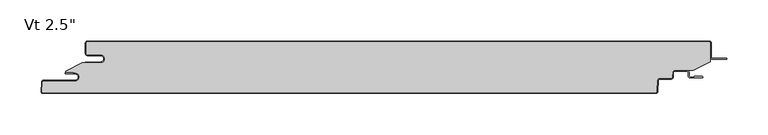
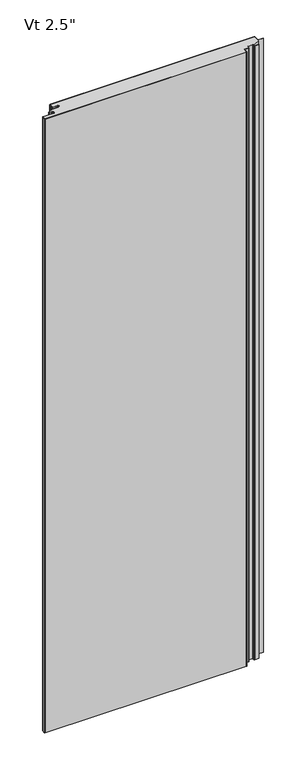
"""IFC4 building model written with IfcOpenShell, lengths in millimetres: plate geometry."""

from ifc_helpers import new_model, si_unit, point, frame, frame_2d, origin, origin_with_axes, place, context, project, spatial, polyline, circle_curve, ellipse_curve, trimmed, segment, composite_curve, outline, extrude, source, transform, mapped, element, save
from ifc_brep_helpers import plane_surface, cylinder_surface, revolved_surface, extruded_surface, advanced_brep


def plate_39f8857a(model_context):
    return source(origin(), model_context, "Body", "SolidModel", [
        extrude(outline(composite_curve([segment(polyline([(-361.94375, -16.4625), (-377.81875, -16.4625)]), True, "CONTINUOUS"), segment(trimmed(circle_curve(frame_2d((-377.81875, -15.08125)), 1.38125), [point((-377.81875, -16.4625))], [point((-379.2, -15.08125))], False, "CARTESIAN"), True, "CONTINUOUS"), segment(polyline([(-379.2, -15.08125), (-379.2, -2.38125)]), True, "CONTINUOUS"), segment(trimmed(circle_curve(frame_2d((-377.81875, -2.38125)), 1.38125), [point((-379.2, -2.38125))], [point((-377.81875, -1.0))], False, "CARTESIAN"), True, "CONTINUOUS"), segment(polyline([(-377.81875, -1.0), (377.83125, -1.0)]), True, "CONTINUOUS"), segment(trimmed(circle_curve(frame_2d((377.83125, -2.38125)), 1.38125), [point((377.83125, -1.0))], [point((379.2125, -2.38125))], False, "CARTESIAN"), True, "CONTINUOUS"), segment(polyline([(379.2125, -2.38125), (379.2125, -24.9057308), (358.3955434, -35.5125), (335.9540783, -35.5125)]), True, "CONTINUOUS"), segment(trimmed(circle_curve(frame_2d((335.9540783, -38.1)), 2.5875), [point((335.9540783, -35.5125))], [point((333.3701244, -37.9645807))], True, "CARTESIAN"), True, "CONTINUOUS"), segment(polyline([(333.3701244, -37.9645807), (333.0680481, -43.728539)]), True, "CONTINUOUS"), segment(trimmed(circle_curve(frame_2d((331.6886911, -43.65625)), 1.38125), [point((333.0680481, -43.728539))], [point((331.6886911, -45.0375))], False, "CARTESIAN"), True, "CONTINUOUS"), segment(polyline([(331.6886911, -45.0375), (317.5323847, -45.0375)]), True, "CONTINUOUS"), segment(trimmed(circle_curve(frame_2d((317.5323847, -47.625)), 2.5875), [point((317.5323847, -45.0375))], [point((314.9484307, -47.4895807))], True, "CARTESIAN"), True, "CONTINUOUS"), segment(polyline([(314.9484307, -47.4895807), (314.2303677, -61.191039)]), True, "CONTINUOUS"), segment(trimmed(circle_curve(frame_2d((312.8510107, -61.11875)), 1.38125), [point((314.2303677, -61.191039))], [point((312.8510107, -62.5))], False, "CARTESIAN"), True, "CONTINUOUS"), segment(polyline([(312.8510107, -62.5), (-431.6799535, -62.5)]), True, "CONTINUOUS"), segment(trimmed(circle_curve(frame_2d((-431.6799535, -61.11875)), 1.38125), [point((-431.6799535, -62.5))], [point((-433.0593106, -61.046461))], False, "CARTESIAN"), True, "CONTINUOUS"), segment(polyline([(-433.0593106, -61.046461), (-432.4769291, -49.933961)]), True, "CONTINUOUS"), segment(trimmed(circle_curve(frame_2d((-431.0975721, -50.00625)), 1.38125), [point((-432.4769291, -49.933961))], [point((-431.0975721, -48.625))], False, "CARTESIAN"), True, "CONTINUOUS"), segment(polyline([(-431.0975721, -48.625), (-392.9142674, -48.625)]), True, "CONTINUOUS"), segment(trimmed(circle_curve(frame_2d((-392.9142674, -43.65625)), 4.96875), [point((-392.9142674, -48.625))], [point((-392.9142674, -38.6875))], True, "CARTESIAN"), True, "CONTINUOUS"), segment(polyline([(-392.9142674, -38.6875), (-394.5017674, -38.89375), (-394.5017674, -38.1), (-404.0125, -38.1), (-404.0125, -36.5326309), (-384.1260922, -26.4), (-361.94375, -26.4)]), True, "CONTINUOUS"), segment(trimmed(circle_curve(frame_2d((-361.94375, -21.43125)), 4.96875), [point((-361.94375, -26.4))], [point((-361.94375, -16.4625))], True, "CARTESIAN"), True, "CONTINUOUS")], self_intersect=False)), origin_with_axes(), (0.0, 0.0, 1.0), 2400.0),
        extrude(outline(composite_curve([segment(polyline([(-380.2, -25.4), (-361.94375, -25.4)]), True, "CONTINUOUS"), segment(trimmed(circle_curve(frame_2d((-361.94375, -21.43125)), 3.96875), [point((-361.94375, -25.4))], [point((-361.94375, -17.4625))], True, "CARTESIAN"), True, "CONTINUOUS"), segment(polyline([(-361.94375, -17.4625), (-377.81875, -17.4625)]), True, "CONTINUOUS"), segment(trimmed(circle_curve(frame_2d((-377.81875, -15.08125)), 2.38125), [point((-377.81875, -17.4625))], [point((-380.2, -15.08125))], False, "CARTESIAN"), True, "CONTINUOUS"), segment(polyline([(-380.2, -15.08125), (-380.2, -2.38125)]), True, "CONTINUOUS"), segment(trimmed(circle_curve(frame_2d((-377.81875, -2.38125)), 2.38125), [point((-380.2, -2.38125))], [point((-377.81875, 0.0))], False, "CARTESIAN"), True, "CONTINUOUS"), segment(polyline([(-377.81875, 0.0), (377.83125, 0.0)]), True, "CONTINUOUS"), segment(trimmed(circle_curve(frame_2d((377.83125, -2.38125)), 2.38125), [point((377.83125, 0.0))], [point((380.2125, -2.38125))], False, "CARTESIAN"), True, "CONTINUOUS"), segment(polyline([(380.2125, -2.38125), (380.2125, -19.446875)]), True, "CONTINUOUS"), segment(trimmed(circle_curve(frame_2d((381.8, -19.446875)), 1.5875), [point((380.2125, -19.446875))], [point((381.8, -21.034375))], True, "CARTESIAN"), True, "CONTINUOUS"), segment(polyline([(381.8, -21.034375), (399.2625, -21.034375), (399.2625, -22.034375), (381.8, -22.034375)]), True, "CONTINUOUS"), segment(trimmed(circle_curve(frame_2d((381.8, -19.446875)), 2.5875), [point((381.8, -22.034375))], [point((379.2125, -19.446875))], False, "CARTESIAN"), True, "CONTINUOUS"), segment(polyline([(379.2125, -19.446875), (379.2125, -2.38125)]), True, "CONTINUOUS"), segment(trimmed(circle_curve(frame_2d((377.83125, -2.38125)), 1.38125), [point((379.2125, -2.38125))], [point((377.83125, -1.0))], True, "CARTESIAN"), True, "CONTINUOUS"), segment(polyline([(377.83125, -1.0), (-377.81875, -1.0)]), True, "CONTINUOUS"), segment(trimmed(circle_curve(frame_2d((-377.81875, -2.38125)), 1.38125), [point((-377.81875, -1.0))], [point((-379.2, -2.38125))], True, "CARTESIAN"), True, "CONTINUOUS"), segment(polyline([(-379.2, -2.38125), (-379.2, -15.08125)]), True, "CONTINUOUS"), segment(trimmed(circle_curve(frame_2d((-377.81875, -15.08125)), 1.38125), [point((-379.2, -15.08125))], [point((-377.81875, -16.4625))], True, "CARTESIAN"), True, "CONTINUOUS"), segment(polyline([(-377.81875, -16.4625), (-361.94375, -16.4625)]), True, "CONTINUOUS"), segment(trimmed(circle_curve(frame_2d((-361.94375, -21.43125)), 4.96875), [point((-361.94375, -16.4625))], [point((-361.94375, -26.4))], False, "CARTESIAN"), True, "CONTINUOUS"), segment(polyline([(-361.94375, -26.4), (-380.2, -26.4), (-380.2, -25.4)]), True, "CONTINUOUS")], self_intersect=False)), origin_with_axes(), (0.0, 0.0, 1.0), 2400.0),
        advanced_brep(
        [(-404.2252049, -38.1, 2400.0), (-404.2252049, -39.6875, 2400.0), (-392.9142674, -39.6875, 2400.0), (-392.9142674, -47.625, 2400.0), (-431.0975721, -47.625, 2400.0), (-433.4755586, -49.881625, 2400.0), (-434.0579401, -60.994125, 2400.0), (-431.6799535, -63.5, 2400.0), (312.8510107, -63.5, 2400.0), (315.2289973, -61.243375, 2400.0), (315.9470603, -47.5419167, 2400.0), (317.5323847, -46.0375, 2400.0), (331.6886911, -46.0375, 2400.0), (334.0666776, -43.780875, 2400.0), (334.3687539, -38.0169167, 2400.0), (335.9540783, -36.5125, 2400.0), (350.8294826, -36.5125, 2400.0), (352.4169826, -38.1, 2400.0), (352.4169826, -42.2671875, 2400.0), (354.7982326, -44.6484375, 2400.0), (369.2898532, -44.6484375, 2400.0), (369.2898532, -42.8546875, 2400.0), (359.5607326, -42.8546875, 2400.0), (359.5607326, -43.6484375, 2400.0), (354.7982326, -43.6484375, 2400.0), (353.4169826, -42.2671875, 2400.0), (353.4169826, -38.1, 2400.0), (350.8294826, -35.5125, 2400.0), (335.9540783, -35.5125, 2400.0), (333.3701244, -37.9645807, 2400.0), (333.0680481, -43.728539, 2400.0), (331.6886911, -45.0375, 2400.0), (317.5323847, -45.0375, 2400.0), (314.9484307, -47.4895807, 2400.0), (314.2303677, -61.191039, 2400.0), (312.8510107, -62.5, 2400.0), (-431.6799535, -62.5, 2400.0), (-433.0593106, -61.046461, 2400.0), (-432.4769291, -49.933961, 2400.0), (-431.0975721, -48.625, 2400.0), (-392.9142674, -48.625, 2400.0), (-392.9142674, -38.6875, 2400.0), (-394.5017674, -38.89375, 2400.0), (-394.5017674, -38.1, 2400.0), (-404.2252049, -38.1, 0.0), (-394.5017674, -38.1, 0.0), (-394.5017674, -38.89375, 0.0), (-392.9142674, -38.6875, 0.0), (-392.9142674, -48.625, 0.0), (-431.0975721, -48.625, 0.0), (-432.4769291, -49.933961, 0.0), (-433.0593106, -61.046461, 0.0), (-431.6799535, -62.5, 0.0), (312.8510107, -62.5, 0.0), (314.2303677, -61.191039, 0.0), (314.9484307, -47.4895807, 0.0), (317.5323847, -45.0375, 0.0), (331.6886911, -45.0375, 0.0), (333.0680481, -43.728539, 0.0), (333.3701244, -37.9645807, 0.0), (335.9540783, -35.5125, 0.0), (350.8294826, -35.5125, 0.0), (353.4169826, -38.1, 0.0), (353.4169826, -42.2671875, 0.0), (354.7982326, -43.6484375, 0.0), (359.5607326, -43.6484375, 0.0), (359.5607326, -42.8546875, 0.0), (369.2898532, -42.8546875, 0.0), (369.2898532, -44.6484375, 0.0), (354.7982326, -44.6484375, 0.0), (352.4169826, -42.2671875, 0.0), (352.4169826, -38.1, 0.0), (350.8294826, -36.5125, 0.0), (335.9540783, -36.5125, 0.0), (334.3687539, -38.0169167, 0.0), (334.0666776, -43.780875, 0.0), (331.6886911, -46.0375, 0.0), (317.5323847, -46.0375, 0.0), (315.9470603, -47.5419167, 0.0), (315.2289973, -61.243375, 0.0), (312.8510107, -63.5, 0.0), (-431.6799535, -63.5, 0.0), (-434.0579401, -60.994125, 0.0), (-433.4755586, -49.881625, 0.0), (-431.0975721, -47.625, 0.0), (-392.9142674, -47.625, 0.0), (-392.9142674, -39.6875, 0.0), (-404.2252049, -39.6875, 0.0)],
        [
            (0, 1, circle_curve(frame((-404.2252049, -38.89375, 2400.0), z_axis=(0.0, 0.0, 1.0), x_axis=(1.0, 0.0, 0.0)), 0.79375)),
            (1, 2),
            (2, 3, circle_curve(frame((-392.9142674, -43.65625, 2400.0), z_axis=(0.0, 0.0, -1.0), x_axis=(1.0, 0.0, 0.0)), 3.96875)),
            (3, 4),
            (4, 5, circle_curve(frame((-431.0975721, -50.00625, 2400.0), z_axis=(0.0, 0.0, 1.0), x_axis=(1.0, 0.0, 0.0)), 2.38125)),
            (5, 6),
            (6, 7, circle_curve(frame((-431.6799535, -61.11875, 2400.0), z_axis=(0.0, 0.0, 1.0), x_axis=(1.0, 0.0, 0.0)), 2.38125)),
            (7, 8),
            (8, 9, circle_curve(frame((312.8510107, -61.11875, 2400.0), z_axis=(0.0, 0.0, 1.0), x_axis=(1.0, 0.0, 0.0)), 2.38125)),
            (9, 10),
            (10, 11, circle_curve(frame((317.5323847, -47.625, 2400.0), z_axis=(0.0, 0.0, -1.0), x_axis=(1.0, 0.0, 0.0)), 1.5875)),
            (11, 12),
            (12, 13, circle_curve(frame((331.6886911, -43.65625, 2400.0), z_axis=(0.0, 0.0, 1.0), x_axis=(1.0, 0.0, 0.0)), 2.38125)),
            (13, 14),
            (14, 15, circle_curve(frame((335.9540783, -38.1, 2400.0), z_axis=(0.0, 0.0, -1.0), x_axis=(1.0, 0.0, 0.0)), 1.5875)),
            (15, 16),
            (16, 17, circle_curve(frame((350.8294826, -38.1, 2400.0), z_axis=(0.0, 0.0, -1.0), x_axis=(1.0, 0.0, 0.0)), 1.5875)),
            (17, 18),
            (18, 19, circle_curve(frame((354.7982326, -42.2671875, 2400.0), z_axis=(0.0, 0.0, 1.0), x_axis=(1.0, 0.0, 0.0)), 2.38125)),
            (19, 20),
            (20, 21, ellipse_curve(frame((369.2898532, -43.7515625, 2400.0), z_axis=(0.0, 0.0, 1.0), x_axis=(0.0, 1.0, 0.0)), 0.896875, 0.7852275)),
            (21, 22),
            (22, 23),
            (23, 24),
            (24, 25, circle_curve(frame((354.7982326, -42.2671875, 2400.0), z_axis=(0.0, 0.0, -1.0), x_axis=(1.0, 0.0, 0.0)), 1.38125)),
            (25, 26),
            (26, 27, circle_curve(frame((350.8294826, -38.1, 2400.0), z_axis=(0.0, 0.0, 1.0), x_axis=(1.0, 0.0, 0.0)), 2.5875)),
            (27, 28),
            (28, 29, circle_curve(frame((335.9540783, -38.1, 2400.0), z_axis=(0.0, 0.0, 1.0), x_axis=(1.0, 0.0, 0.0)), 2.5875)),
            (29, 30),
            (30, 31, circle_curve(frame((331.6886911, -43.65625, 2400.0), z_axis=(0.0, 0.0, -1.0), x_axis=(1.0, 0.0, 0.0)), 1.38125)),
            (31, 32),
            (32, 33, circle_curve(frame((317.5323847, -47.625, 2400.0), z_axis=(0.0, 0.0, 1.0), x_axis=(1.0, 0.0, 0.0)), 2.5875)),
            (33, 34),
            (34, 35, circle_curve(frame((312.8510107, -61.11875, 2400.0), z_axis=(0.0, 0.0, -1.0), x_axis=(1.0, 0.0, 0.0)), 1.38125)),
            (35, 36),
            (36, 37, circle_curve(frame((-431.6799535, -61.11875, 2400.0), z_axis=(0.0, 0.0, -1.0), x_axis=(1.0, 0.0, 0.0)), 1.38125)),
            (37, 38),
            (38, 39, circle_curve(frame((-431.0975721, -50.00625, 2400.0), z_axis=(0.0, 0.0, -1.0), x_axis=(1.0, 0.0, 0.0)), 1.38125)),
            (39, 40),
            (40, 41, circle_curve(frame((-392.9142674, -43.65625, 2400.0), z_axis=(0.0, 0.0, 1.0), x_axis=(1.0, 0.0, 0.0)), 4.96875)),
            (41, 42),
            (42, 43),
            (43, 0),
            (44, 45),
            (45, 46),
            (46, 47),
            (47, 48, circle_curve(frame((-392.9142674, -43.65625, 0.0), z_axis=(0.0, 0.0, -1.0), x_axis=(1.0, 0.0, 0.0)), 4.96875)),
            (48, 49),
            (49, 50, circle_curve(frame((-431.0975721, -50.00625, 0.0), z_axis=(0.0, 0.0, 1.0), x_axis=(1.0, 0.0, 0.0)), 1.38125)),
            (50, 51),
            (51, 52, circle_curve(frame((-431.6799535, -61.11875, 0.0), z_axis=(0.0, 0.0, 1.0), x_axis=(1.0, 0.0, 0.0)), 1.38125)),
            (52, 53),
            (53, 54, circle_curve(frame((312.8510107, -61.11875, 0.0), z_axis=(0.0, 0.0, 1.0), x_axis=(1.0, 0.0, 0.0)), 1.38125)),
            (54, 55),
            (55, 56, circle_curve(frame((317.5323847, -47.625, 0.0), z_axis=(0.0, 0.0, -1.0), x_axis=(1.0, 0.0, 0.0)), 2.5875)),
            (56, 57),
            (57, 58, circle_curve(frame((331.6886911, -43.65625, 0.0), z_axis=(0.0, 0.0, 1.0), x_axis=(1.0, 0.0, 0.0)), 1.38125)),
            (58, 59),
            (59, 60, circle_curve(frame((335.9540783, -38.1, 0.0), z_axis=(0.0, 0.0, -1.0), x_axis=(1.0, 0.0, 0.0)), 2.5875)),
            (60, 61),
            (61, 62, circle_curve(frame((350.8294826, -38.1, 0.0), z_axis=(0.0, 0.0, -1.0), x_axis=(1.0, 0.0, 0.0)), 2.5875)),
            (62, 63),
            (63, 64, circle_curve(frame((354.7982326, -42.2671875, 0.0), z_axis=(0.0, 0.0, 1.0), x_axis=(1.0, 0.0, 0.0)), 1.38125)),
            (64, 65),
            (65, 66),
            (66, 67),
            (67, 68, ellipse_curve(frame((369.2898532, -43.7515625, 0.0), z_axis=(0.0, 0.0, -1.0), x_axis=(0.0, 1.0, 0.0)), 0.896875, 0.7852275)),
            (68, 69),
            (69, 70, circle_curve(frame((354.7982326, -42.2671875, 0.0), z_axis=(0.0, 0.0, -1.0), x_axis=(1.0, 0.0, 0.0)), 2.38125)),
            (70, 71),
            (71, 72, circle_curve(frame((350.8294826, -38.1, 0.0), z_axis=(0.0, 0.0, 1.0), x_axis=(1.0, 0.0, 0.0)), 1.5875)),
            (72, 73),
            (73, 74, circle_curve(frame((335.9540783, -38.1, 0.0), z_axis=(0.0, 0.0, 1.0), x_axis=(1.0, 0.0, 0.0)), 1.5875)),
            (74, 75),
            (75, 76, circle_curve(frame((331.6886911, -43.65625, 0.0), z_axis=(0.0, 0.0, -1.0), x_axis=(1.0, 0.0, 0.0)), 2.38125)),
            (76, 77),
            (77, 78, circle_curve(frame((317.5323847, -47.625, 0.0), z_axis=(0.0, 0.0, 1.0), x_axis=(1.0, 0.0, 0.0)), 1.5875)),
            (78, 79),
            (79, 80, circle_curve(frame((312.8510107, -61.11875, 0.0), z_axis=(0.0, 0.0, -1.0), x_axis=(1.0, 0.0, 0.0)), 2.38125)),
            (80, 81),
            (81, 82, circle_curve(frame((-431.6799535, -61.11875, 0.0), z_axis=(0.0, 0.0, -1.0), x_axis=(1.0, 0.0, 0.0)), 2.38125)),
            (82, 83),
            (83, 84, circle_curve(frame((-431.0975721, -50.00625, 0.0), z_axis=(0.0, 0.0, -1.0), x_axis=(1.0, 0.0, 0.0)), 2.38125)),
            (84, 85),
            (85, 86, circle_curve(frame((-392.9142674, -43.65625, 0.0), z_axis=(0.0, 0.0, 1.0), x_axis=(1.0, 0.0, 0.0)), 3.96875)),
            (86, 87),
            (87, 44, circle_curve(frame((-404.2252049, -38.89375, 0.0), z_axis=(0.0, 0.0, -1.0), x_axis=(1.0, 0.0, 0.0)), 0.79375)),
            (43, 45),
            (44, 0),
            (87, 1),
            (86, 2),
            (85, 3),
            (84, 4),
            (83, 5),
            (82, 6),
            (81, 7),
            (80, 8),
            (79, 9),
            (78, 10),
            (77, 11),
            (76, 12),
            (75, 13),
            (74, 14),
            (73, 15),
            (38, 50),
            (49, 39),
            (33, 55),
            (54, 34),
            (32, 56),
            (31, 57),
            (30, 58),
            (29, 59),
            (28, 60),
            (23, 65),
            (64, 24),
            (63, 25),
            (62, 26),
            (72, 16),
            (71, 17),
            (70, 18),
            (69, 19),
            (68, 20),
            (27, 61),
            (48, 40),
            (47, 41),
            (42, 46),
            (22, 66),
            (21, 67),
            (37, 51),
            (36, 52),
            (35, 53),
        ],
        [
            plane_surface(frame((0.00625, -63.5, 2400.0), z_axis=(0.0, 0.0, 1.0), x_axis=(0.0, -1.0, 0.0))),
            plane_surface(frame((0.00625, -63.5, 0.0), z_axis=(0.0, 0.0, -1.0), x_axis=(0.0, -1.0, 0.0))),
            plane_surface(frame((-404.2252049, -38.1, 2400.0), z_axis=(0.0, 1.0, 0.0), x_axis=(0.0, 0.0, -1.0))),
            cylinder_surface(frame((-404.2252049, -38.89375, 2400.0), z_axis=(0.0, 0.0, 1.0), x_axis=(1.0, 0.0, 0.0)), 0.79375),
            plane_surface(frame((-392.9142674, -39.6875, 2400.0), z_axis=(0.0, -1.0, 0.0), x_axis=(0.0, 0.0, -1.0))),
            revolved_surface(polyline([(-388.9455174, -43.65625, 0.0), (-388.9455174, -43.65625, 2400.0)]), (-392.9142674, -43.65625, 2400.0), (0.0, 0.0, -1.0)),
            plane_surface(frame((-431.0975721, -47.625, 2400.0), z_axis=(0.0, 1.0, 0.0), x_axis=(0.0, 0.0, -1.0))),
            cylinder_surface(frame((-431.0975721, -50.00625, 2400.0), z_axis=(0.0, 0.0, 1.0), x_axis=(1.0, 0.0, 0.0)), 2.38125),
            plane_surface(frame((-434.0579401, -60.994125, 2400.0), z_axis=(-0.9986295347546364, 0.05233595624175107, 0.0), x_axis=(0.0, 0.0, -1.0))),
            cylinder_surface(frame((-431.6799535, -61.11875, 2400.0), z_axis=(0.0, 0.0, 1.0), x_axis=(1.0, 0.0, 0.0)), 2.38125),
            plane_surface(frame((312.8510107, -63.5, 2400.0), z_axis=(0.0, -1.0, 0.0), x_axis=(0.0, 0.0, -1.0))),
            cylinder_surface(frame((312.8510107, -61.11875, 2400.0), z_axis=(0.0, 0.0, 1.0), x_axis=(1.0, 0.0, 0.0)), 2.38125),
            plane_surface(frame((315.9470603, -47.5419167, 2400.0), z_axis=(0.9986295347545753, -0.05233595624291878, 0.0), x_axis=(0.0, 0.0, -1.0))),
            revolved_surface(polyline([(319.1198847, -47.625, 0.0), (319.1198847, -47.625, 2400.0)]), (317.5323847, -47.625, 2400.0), (0.0, 0.0, -1.0)),
            plane_surface(frame((331.6886911, -46.0375, 2400.0), z_axis=(0.0, -1.0, 0.0), x_axis=(0.0, 0.0, -1.0))),
            cylinder_surface(frame((331.6886911, -43.65625, 2400.0), z_axis=(0.0, 0.0, 1.0), x_axis=(1.0, 0.0, 0.0)), 2.38125),
            plane_surface(frame((334.3687539, -38.0169167, 2400.0), z_axis=(0.9986295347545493, -0.052335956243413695, 0.0), x_axis=(0.0, 0.0, -1.0))),
            revolved_surface(polyline([(337.54157829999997, -38.1, 0.0), (337.54157829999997, -38.1, 2400.0)]), (335.9540783, -38.1, 2400.0), (0.0, 0.0, -1.0)),
            revolved_surface(polyline([(-429.71632209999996, -50.00625, 0.0), (-429.71632209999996, -50.00625, 2400.0)]), (-431.0975721, -50.00625, 2400.0), (0.0, 0.0, -1.0)),
            plane_surface(frame((314.2303677, -61.191039, 2400.0), z_axis=(-0.9986295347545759, 0.052335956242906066, 0.0), x_axis=(0.0, 0.0, -1.0))),
            cylinder_surface(frame((317.5323847, -47.625, 2400.0), z_axis=(0.0, 0.0, 1.0), x_axis=(1.0, 0.0, 0.0)), 2.5875),
            plane_surface(frame((317.5323847, -45.0375, 2400.0), z_axis=(0.0, 1.0, 0.0), x_axis=(0.0, 0.0, -1.0))),
            revolved_surface(polyline([(333.06994110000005, -43.65625, 0.0), (333.06994110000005, -43.65625, 2400.0)]), (331.6886911, -43.65625, 2400.0), (0.0, 0.0, -1.0)),
            plane_surface(frame((333.0680481, -43.728539, 2400.0), z_axis=(-0.998629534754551, 0.05233595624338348, 0.0), x_axis=(0.0, 0.0, -1.0))),
            cylinder_surface(frame((335.9540783, -38.1, 2400.0), z_axis=(0.0, 0.0, 1.0), x_axis=(1.0, 0.0, 0.0)), 2.5875),
            plane_surface(frame((354.7982326, -43.6484375, 2400.0), z_axis=(0.0, 1.0, 0.0), x_axis=(0.0, 0.0, -1.0))),
            revolved_surface(polyline([(356.17948260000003, -42.2671875, 0.0), (356.17948260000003, -42.2671875, 2400.0)]), (354.7982326, -42.2671875, 2400.0), (0.0, 0.0, -1.0)),
            plane_surface(frame((353.4169826, -38.1, 2400.0), z_axis=(1.0, 0.0, 0.0), x_axis=(0.0, 0.0, -1.0))),
            plane_surface(frame((350.8294826, -36.5125, 2400.0), z_axis=(0.0, -1.0, 0.0), x_axis=(0.0, 0.0, -1.0))),
            revolved_surface(polyline([(352.4169826, -38.1, 0.0), (352.4169826, -38.1, 2400.0)]), (350.8294826, -38.1, 2400.0), (0.0, 0.0, -1.0)),
            plane_surface(frame((352.4169826, -42.2671875, 2400.0), z_axis=(-1.0, 0.0, 0.0), x_axis=(0.0, 0.0, -1.0))),
            cylinder_surface(frame((354.7982326, -42.2671875, 2400.0), z_axis=(0.0, 0.0, 1.0), x_axis=(1.0, 0.0, 0.0)), 2.38125),
            plane_surface(frame((369.2898532, -44.6484375, 2400.0), z_axis=(0.0, -1.0, 0.0), x_axis=(0.0, 0.0, -1.0))),
            plane_surface(frame((335.9540783, -35.5125, 2400.0), z_axis=(0.0, 1.0, 0.0), x_axis=(0.0, 0.0, -1.0))),
            cylinder_surface(frame((350.8294826, -38.1, 2400.0), z_axis=(0.0, 0.0, 1.0), x_axis=(1.0, 0.0, 0.0)), 2.5875),
            plane_surface(frame((-392.9142674, -48.625, 2400.0), z_axis=(0.0, -1.0, 0.0), x_axis=(0.0, 0.0, -1.0))),
            cylinder_surface(frame((-392.9142674, -43.65625, 2400.0), z_axis=(0.0, 0.0, 1.0), x_axis=(1.0, 0.0, 0.0)), 4.96875),
            plane_surface(frame((-394.5017674, -38.1, 2400.0), z_axis=(1.0, 0.0, 0.0), x_axis=(0.0, 0.0, -1.0))),
            plane_surface(frame((-394.5017674, -38.89375, 2400.0), z_axis=(-0.12883844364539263, 0.9916655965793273, 0.0), x_axis=(0.0, 0.0, -1.0))),
            plane_surface(frame((359.5607326, -43.6484375, 2400.0), z_axis=(-1.0, 0.0, 0.0), x_axis=(0.0, 0.0, -1.0))),
            plane_surface(frame((359.5607326, -42.8546875, 2400.0), z_axis=(0.0, 1.0, 0.0), x_axis=(0.0, 0.0, -1.0))),
            extruded_surface(trimmed(ellipse_curve(frame((369.2898532, -43.7515625, 2400.0), z_axis=(0.0, 0.0, -1.0), x_axis=(0.0, 1.0, 0.0)), 0.896875, 0.7852275), [point((369.2898532, -42.8546875, 2400.0))], [point((369.2898532, -44.6484375, 2400.0))], True, "CARTESIAN"), (0.0, 0.0, -2400.0), 2400.0),
            plane_surface(frame((-432.4769291, -49.933961, 2400.0), z_axis=(0.9986295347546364, -0.05233595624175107, 0.0), x_axis=(0.0, 0.0, -1.0))),
            revolved_surface(polyline([(-430.2987035, -61.11875, 0.0), (-430.2987035, -61.11875, 2400.0)]), (-431.6799535, -61.11875, 2400.0), (0.0, 0.0, -1.0)),
            plane_surface(frame((-431.6799535, -62.5, 2400.0), z_axis=(0.0, 1.0, 0.0), x_axis=(0.0, 0.0, -1.0))),
            revolved_surface(polyline([(314.23226070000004, -61.11875, 0.0), (314.23226070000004, -61.11875, 2400.0)]), (312.8510107, -61.11875, 2400.0), (0.0, 0.0, -1.0)),
        ],
        [
            (0, [[1, 2, 3, 4, 5, 6, 7, 8, 9, 10, 11, 12, 13, 14, 15, 16, 17, 18, 19, 20, 21, 22, 23, 24, 25, 26, 27, 28, 29, 30, 31, 32, 33, 34, 35, 36, 37, 38, 39, 40, 41, 42, 43, 44]]),
            (1, [[45, 46, 47, 48, 49, 50, 51, 52, 53, 54, 55, 56, 57, 58, 59, 60, 61, 62, 63, 64, 65, 66, 67, 68, 69, 70, 71, 72, 73, 74, 75, 76, 77, 78, 79, 80, 81, 82, 83, 84, 85, 86, 87, 88]]),
            (2, [[89, -45, 90, -44]]),
            (3, [[-90, -88, 91, -1]]),
            (4, [[-91, -87, 92, -2]]),
            (5, [[-92, -86, 93, -3]]),
            (6, [[-93, -85, 94, -4]]),
            (7, [[-94, -84, 95, -5]]),
            (8, [[-95, -83, 96, -6]]),
            (9, [[-96, -82, 97, -7]]),
            (10, [[-97, -81, 98, -8]]),
            (11, [[-98, -80, 99, -9]]),
            (12, [[-99, -79, 100, -10]]),
            (13, [[-100, -78, 101, -11]]),
            (14, [[-101, -77, 102, -12]]),
            (15, [[-102, -76, 103, -13]]),
            (16, [[-103, -75, 104, -14]]),
            (17, [[-104, -74, 105, -15]]),
            (18, [[106, -50, 107, -39]]),
            (19, [[108, -55, 109, -34]]),
            (20, [[110, -56, -108, -33]]),
            (21, [[111, -57, -110, -32]]),
            (22, [[112, -58, -111, -31]]),
            (23, [[113, -59, -112, -30]]),
            (24, [[114, -60, -113, -29]]),
            (25, [[115, -65, 116, -24]]),
            (26, [[-116, -64, 117, -25]]),
            (27, [[-117, -63, 118, -26]]),
            (28, [[-105, -73, 119, -16]]),
            (29, [[-119, -72, 120, -17]]),
            (30, [[-120, -71, 121, -18]]),
            (31, [[-121, -70, 122, -19]]),
            (32, [[-122, -69, 123, -20]]),
            (33, [[124, -61, -114, -28]]),
            (34, [[-118, -62, -124, -27]]),
            (35, [[-107, -49, 125, -40]]),
            (36, [[-125, -48, 126, -41]]),
            (37, [[127, -46, -89, -43]]),
            (38, [[-126, -47, -127, -42]]),
            (39, [[128, -66, -115, -23]]),
            (40, [[129, -67, -128, -22]]),
            (41, [[-123, -68, -129, -21]]),
            (42, [[130, -51, -106, -38]]),
            (43, [[131, -52, -130, -37]]),
            (44, [[132, -53, -131, -36]]),
            (45, [[-109, -54, -132, -35]]),
        ],
    ),
    ])


if __name__ == "__main__":
    model = new_model("IFC4")
    model_context = context("Model", 3, world=origin())
    ifc_project = project(units=[si_unit("LENGTHUNIT", "METRE", prefix="MILLI")], contexts=[model_context])
    site = spatial("IfcSite", under=ifc_project)
    building = spatial("IfcBuilding", under=site)
    placement = place(None, origin())
    plate_shape = plate_39f8857a(model_context)
    element("IfcPlate", 1, ObjectType="KIP-30-DWHR-R19-CP-Vt-F : Vt 2.5\"", at=placement, inside=building, context=model_context, shape_type="MappedRepresentation", body=[
        mapped(plate_shape, transform((0.0, 0.0, 0.0), x_axis=(1.0, 0.0, 0.0), y_axis=(0.0, 1.0, 0.0), z_axis=(0.0, 0.0, 1.0))),
    ])
    save(model, "model.ifc")
